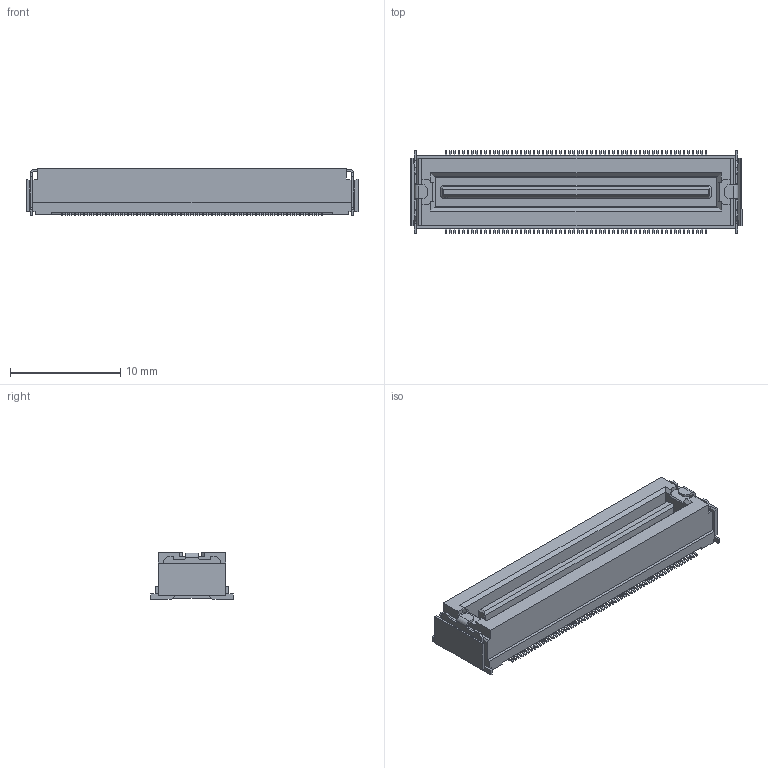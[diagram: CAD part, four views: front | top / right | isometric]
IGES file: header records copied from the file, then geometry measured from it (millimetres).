
Start section: Elysium IGES Interface
Global section: file name: C:\Users\1354\Desktop\P3D161_DU00-120SB\P3D161_DU00-120SB.igs; native system: Creo Elements/Direct Modeling 19.0F  14-Feb-2017; preprocessor: Creo Element/Direct IGES_3D V2.2; author: Unknown; organization: Unknown; date: 20171127.154826; units: millimetre
Bounding box: 30.1 x 7.5 x 4.25 mm (x, y, z)
Volume: 597.9 mm3; surface area: 1071.5 mm2
Topology: 1 solids, 1 shells, 1214 faces, 3429 edges, 2278 vertices
Faces by surface type: bspline 1214
